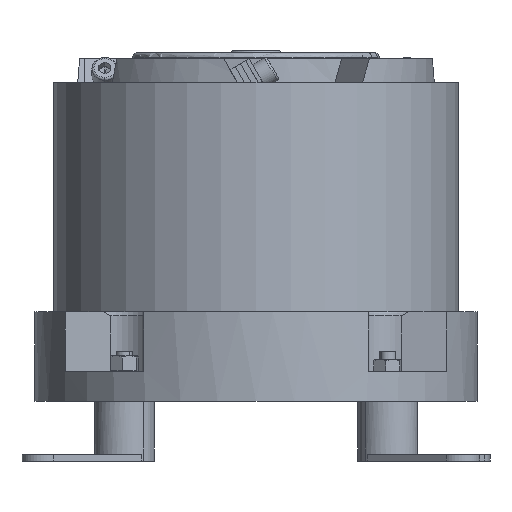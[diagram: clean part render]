
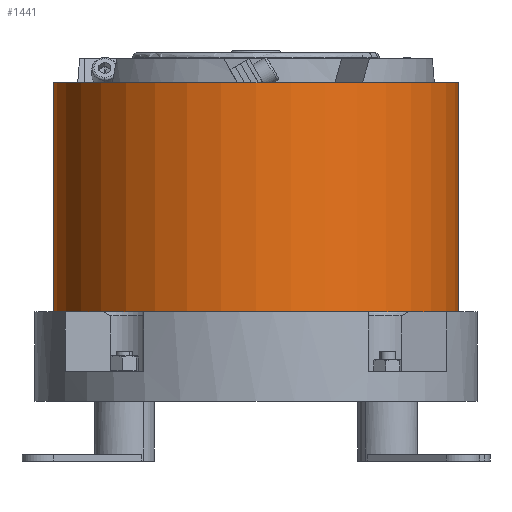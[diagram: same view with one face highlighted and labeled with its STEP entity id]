
A CAD part, front view. The second image highlights one B-rep face of the part: STEP entity #1441.
In plain terms, the highlighted cylindrical face has radius 101.5 mm (diameter 203 mm), a partial arc.
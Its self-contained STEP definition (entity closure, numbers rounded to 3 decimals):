
#1138=CYLINDRICAL_SURFACE('',#9917,101.5);
#1441=ADVANCED_FACE('',(#2062),#1138,.T.);
#2062=FACE_OUTER_BOUND('',#2594,.T.);
#2594=EDGE_LOOP('',(#5193,#5194,#5195,#5196));
#3245=LINE('',#14561,#3906);
#3246=LINE('',#14565,#3907);
#3906=VECTOR('',#11520,1.);
#3907=VECTOR('',#11523,1.);
#5193=ORIENTED_EDGE('',*,*,#8203,.F.);
#5194=ORIENTED_EDGE('',*,*,#8210,.T.);
#5195=ORIENTED_EDGE('',*,*,#8205,.T.);
#5196=ORIENTED_EDGE('',*,*,#8211,.T.);
#7216=VERTEX_POINT('',#14559);
#7217=VERTEX_POINT('',#14560);
#7218=VERTEX_POINT('',#14562);
#7219=VERTEX_POINT('',#14564);
#8203=EDGE_CURVE('',#7217,#7218,#3245,.T.);
#8205=EDGE_CURVE('',#7216,#7219,#3246,.T.);
#8210=EDGE_CURVE('',#7217,#7216,#9257,.T.);
#8211=EDGE_CURVE('',#7219,#7218,#9258,.T.);
#9257=CIRCLE('',#9915,101.5);
#9258=CIRCLE('',#9916,101.5);
#9915=AXIS2_PLACEMENT_3D('',#14576,#11534,#11535);
#9916=AXIS2_PLACEMENT_3D('',#14577,#11536,#11537);
#9917=AXIS2_PLACEMENT_3D('',#14578,#11538,#11539);
#11520=DIRECTION('',(0.,0.,-1.));
#11523=DIRECTION('',(0.,0.,-1.));
#11534=DIRECTION('',(0.,0.,-1.));
#11535=DIRECTION('',(-1.,0.,0.));
#11536=DIRECTION('',(0.,0.,1.));
#11537=DIRECTION('',(-1.,0.,0.));
#11538=DIRECTION('',(0.,0.,-1.));
#11539=DIRECTION('',(-1.,0.,0.));
#14559=CARTESIAN_POINT('',(-199.837,16.329,72.));
#14560=CARTESIAN_POINT('',(3.163,16.329,72.));
#14561=CARTESIAN_POINT('',(3.163,16.329,72.));
#14562=CARTESIAN_POINT('',(3.163,16.329,-43.));
#14564=CARTESIAN_POINT('',(-199.837,16.329,-43.));
#14565=CARTESIAN_POINT('',(-199.837,16.329,72.));
#14576=CARTESIAN_POINT('',(-98.337,16.329,72.));
#14577=CARTESIAN_POINT('',(-98.337,16.329,-43.));
#14578=CARTESIAN_POINT('',(-98.337,16.329,72.));
